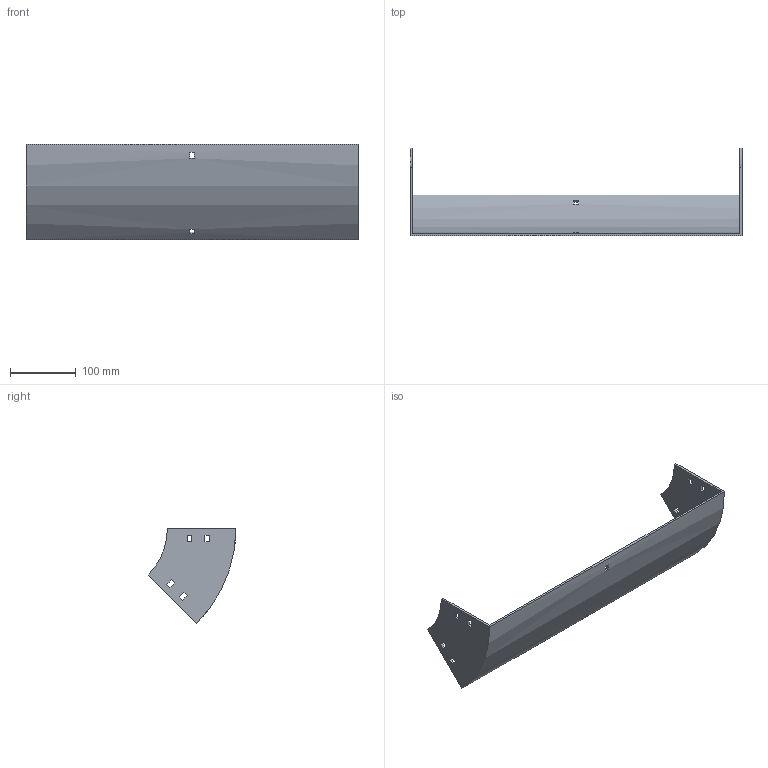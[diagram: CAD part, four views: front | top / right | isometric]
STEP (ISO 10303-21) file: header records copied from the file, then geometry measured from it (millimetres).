
FILE_DESCRIPTION (( 'STEP AP214' ), '1' );
FILE_NAME ('31B1D500.step', '2025-02-21T09:45:51', ( '' ), ( '' ), 'SwSTEP 2.0', 'SolidWorks 2023', '' );
FILE_SCHEMA (( 'AUTOMOTIVE_DESIGN' ));
Length unit declared in the file: millimetre
Products named in the file (1): 31B1D500
Bounding box: 504 x 133.29 x 144.25 mm (x, y, z)
Volume: 360852.1 mm3; surface area: 212865.4 mm2
Topology: 1 solids, 1 shells, 50 faces, 144 edges, 96 vertices
Faces by surface type: plane 46, cylinder 4
Entity records: 1687 total; most frequent: CARTESIAN_POINT 291, ORIENTED_EDGE 288, DIRECTION 262, EDGE_CURVE 144, LINE 128, VECTOR 128, VERTEX_POINT 96, EDGE_LOOP 70
